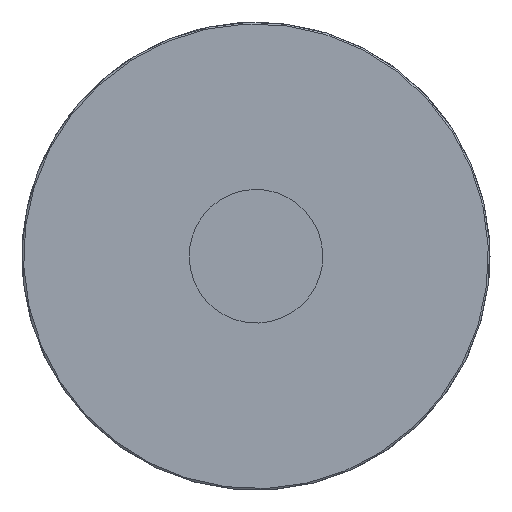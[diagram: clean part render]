
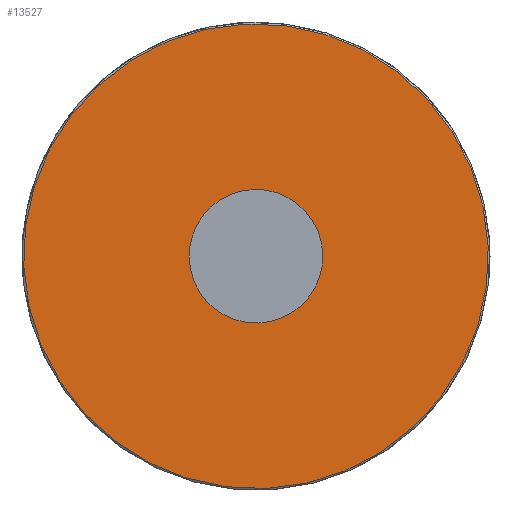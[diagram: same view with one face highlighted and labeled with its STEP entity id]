
A CAD part, left-side view. The second image highlights one B-rep face of the part: STEP entity #13527.
In plain terms, the highlighted planar face has unit normal (-1, 0, 0).
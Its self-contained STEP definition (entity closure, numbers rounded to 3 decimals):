
#57=FACE_BOUND('',#2133,.T.);
#495=PLANE('',#14724);
#1413=FACE_OUTER_BOUND('',#2132,.T.);
#2132=EDGE_LOOP('',(#12758));
#2133=EDGE_LOOP('',(#12759));
#5568=CIRCLE('',#14719,14.9);
#5571=CIRCLE('',#14723,4.283);
#6882=VERTEX_POINT('',#24625);
#6884=VERTEX_POINT('',#24632);
#8844=EDGE_CURVE('',#6882,#6882,#5568,.T.);
#8848=EDGE_CURVE('',#6884,#6884,#5571,.T.);
#12758=ORIENTED_EDGE('',*,*,#8844,.T.);
#12759=ORIENTED_EDGE('',*,*,#8848,.F.);
#13527=ADVANCED_FACE('',(#1413,#57),#495,.F.);
#14719=AXIS2_PLACEMENT_3D('',#24627,#18517,#18518);
#14723=AXIS2_PLACEMENT_3D('',#24634,#18526,#18527);
#14724=AXIS2_PLACEMENT_3D('',#24635,#18528,#18529);
#18517=DIRECTION('center_axis',(-1.,0.,0.));
#18518=DIRECTION('ref_axis',(0.,0.131,-0.991));
#18526=DIRECTION('center_axis',(-1.,0.,0.));
#18527=DIRECTION('ref_axis',(0.,-0.131,0.991));
#18528=DIRECTION('center_axis',(1.,0.,0.));
#18529=DIRECTION('ref_axis',(0.,0.131,-0.991));
#24625=CARTESIAN_POINT('',(-32.,-1.95,14.772));
#24627=CARTESIAN_POINT('Origin',(-32.,0.,0.));
#24632=CARTESIAN_POINT('',(-32.,0.56,-4.246));
#24634=CARTESIAN_POINT('Origin',(-32.,0.,0.));
#24635=CARTESIAN_POINT('Origin',(-32.,0.,0.));
